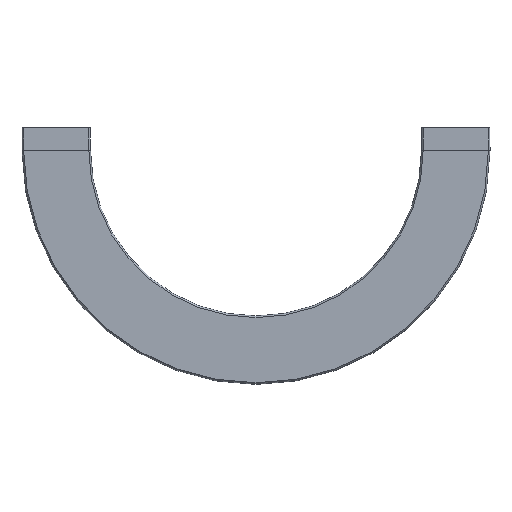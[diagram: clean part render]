
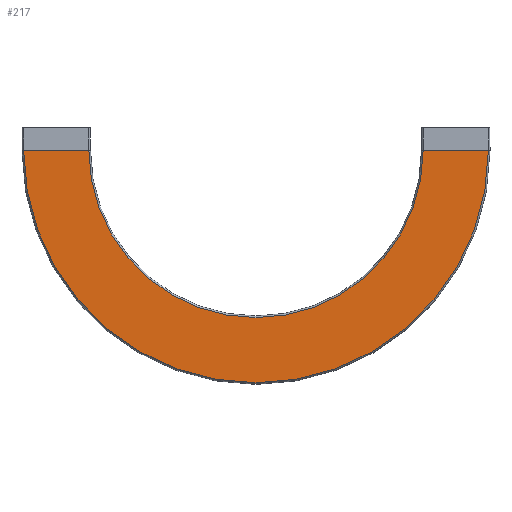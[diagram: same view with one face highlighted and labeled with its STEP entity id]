
A CAD part, front view. The second image highlights one B-rep face of the part: STEP entity #217.
In plain terms, the highlighted planar face has unit normal (0, -1, 0).
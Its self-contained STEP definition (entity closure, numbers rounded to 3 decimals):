
#100 = CARTESIAN_POINT ( 'NONE',  ( 350., -56.5, -40. ) ) ;
#116 = CARTESIAN_POINT ( 'NONE',  ( 642.85, -56.5, -40. ) ) ;
#217 = ADVANCED_FACE ( 'NONE', ( #4413 ), #991, .F. ) ;
#450 = ORIENTED_EDGE ( 'NONE', *, *, #1243, .T. ) ;
#527 = DIRECTION ( 'NONE',  ( 0., 0., 1. ) ) ;
#603 = ORIENTED_EDGE ( 'NONE', *, *, #5511, .T. ) ;
#789 = VERTEX_POINT ( 'NONE', #3878 ) ;
#797 = AXIS2_PLACEMENT_3D ( 'NONE', #100, #3225, #1433 ) ;
#991 = PLANE ( 'NONE',  #5638 ) ;
#1243 = EDGE_CURVE ( 'NONE', #4919, #789, #3403, .T. ) ;
#1433 = DIRECTION ( 'NONE',  ( 0., 0., 1. ) ) ;
#1624 = CARTESIAN_POINT ( 'NONE',  ( 350., -56.5, -40. ) ) ;
#1647 = EDGE_LOOP ( 'NONE', ( #450, #5614, #2599, #603 ) ) ;
#2079 = VERTEX_POINT ( 'NONE', #116 ) ;
#2297 = CARTESIAN_POINT ( 'NONE',  ( 642.85, -56.5, -40. ) ) ;
#2427 = CIRCLE ( 'NONE', #5684, 292.85 ) ;
#2599 = ORIENTED_EDGE ( 'NONE', *, *, #2747, .T. ) ;
#2747 = EDGE_CURVE ( 'NONE', #3718, #2079, #4948, .T. ) ;
#2783 = CIRCLE ( 'NONE', #797, 407.15 ) ;
#2857 = DIRECTION ( 'NONE',  ( -1., 0., 0. ) ) ;
#2924 = DIRECTION ( 'NONE',  ( 0., 0., 1. ) ) ;
#3036 = DIRECTION ( 'NONE',  ( -1., 0., 0. ) ) ;
#3225 = DIRECTION ( 'NONE',  ( 0., 1., 0. ) ) ;
#3344 = CARTESIAN_POINT ( 'NONE',  ( 757.15, -56.5, -40. ) ) ;
#3376 = VECTOR ( 'NONE', #3036, 1000. ) ;
#3403 = LINE ( 'NONE', #5424, #4326 ) ;
#3718 = VERTEX_POINT ( 'NONE', #3344 ) ;
#3757 = CARTESIAN_POINT ( 'NONE',  ( 57.15, -56.5, -40. ) ) ;
#3878 = CARTESIAN_POINT ( 'NONE',  ( -57.15, -56.5, -40. ) ) ;
#4326 = VECTOR ( 'NONE', #2857, 1000. ) ;
#4413 = FACE_OUTER_BOUND ( 'NONE', #1647, .T. ) ;
#4661 = EDGE_CURVE ( 'NONE', #3718, #789, #2783, .T. ) ;
#4919 = VERTEX_POINT ( 'NONE', #3757 ) ;
#4948 = LINE ( 'NONE', #5649, #3376 ) ;
#4972 = DIRECTION ( 'NONE',  ( 0., 1., 0. ) ) ;
#5161 = DIRECTION ( 'NONE',  ( 0., 1., 0. ) ) ;
#5424 = CARTESIAN_POINT ( 'NONE',  ( 0., -56.5, -40. ) ) ;
#5511 = EDGE_CURVE ( 'NONE', #2079, #4919, #2427, .T. ) ;
#5614 = ORIENTED_EDGE ( 'NONE', *, *, #4661, .F. ) ;
#5638 = AXIS2_PLACEMENT_3D ( 'NONE', #2297, #4972, #527 ) ;
#5649 = CARTESIAN_POINT ( 'NONE',  ( 642.85, -56.5, -40. ) ) ;
#5684 = AXIS2_PLACEMENT_3D ( 'NONE', #1624, #5161, #2924 ) ;
